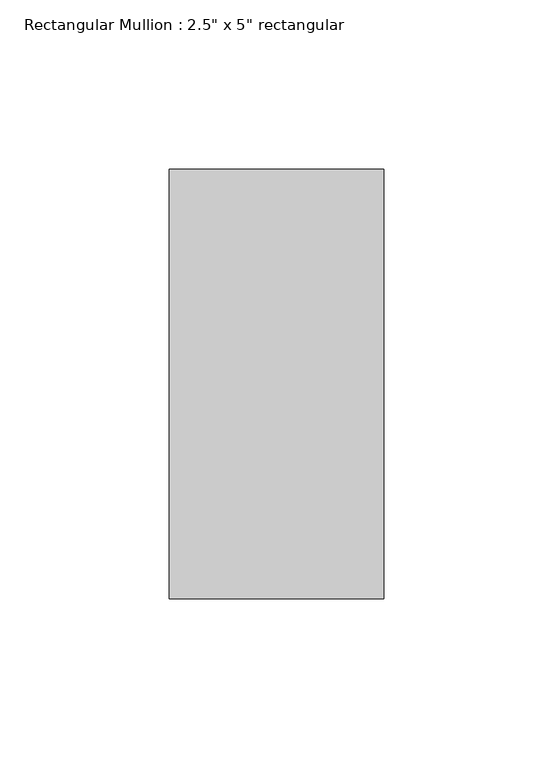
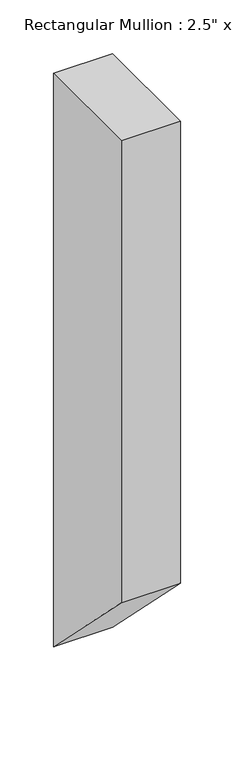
"""IFC4 building model written with IfcOpenShell, lengths in millimetres: member geometry."""

from ifc_helpers import new_model, si_unit, frame, origin, place, context, project, spatial, polyline, outline, extrude, source, transform, mapped, element, save


def member_db3c5f50(model_context):
    return source(origin(), model_context, "Body", "SweptSolid", [
        extrude(outline(polyline([(-63.5, 0.0), (63.5, 0.0), (63.5, -652.5269188), (-63.5, -525.5269188), (-63.5, 0.0)])), frame((-63.5, 0.0, 0.0), z_axis=(1.0, 0.0, 0.0), x_axis=(0.0, 1.0, 0.0)), (0.0, 0.0, 1.0), 63.5),
    ])


if __name__ == "__main__":
    model = new_model("IFC4")
    model_context = context("Model", 3, world=origin())
    ifc_project = project(units=[si_unit("LENGTHUNIT", "METRE", prefix="MILLI")], contexts=[model_context])
    site = spatial("IfcSite", under=ifc_project)
    building = spatial("IfcBuilding", under=site)
    placement = place(None, origin())
    member_shape = member_db3c5f50(model_context)
    element("IfcMember", 1, ObjectType="Rectangular Mullion : 2.5\" x 5\" rectangular", at=placement, inside=building, context=model_context, shape_type="MappedRepresentation", body=[
        mapped(member_shape, transform((0.0, 0.0, 0.0), x_axis=(1.0, 0.0, 0.0), y_axis=(0.0, 1.0, 0.0), z_axis=(0.0, 0.0, 1.0))),
    ])
    save(model, "model.ifc")
